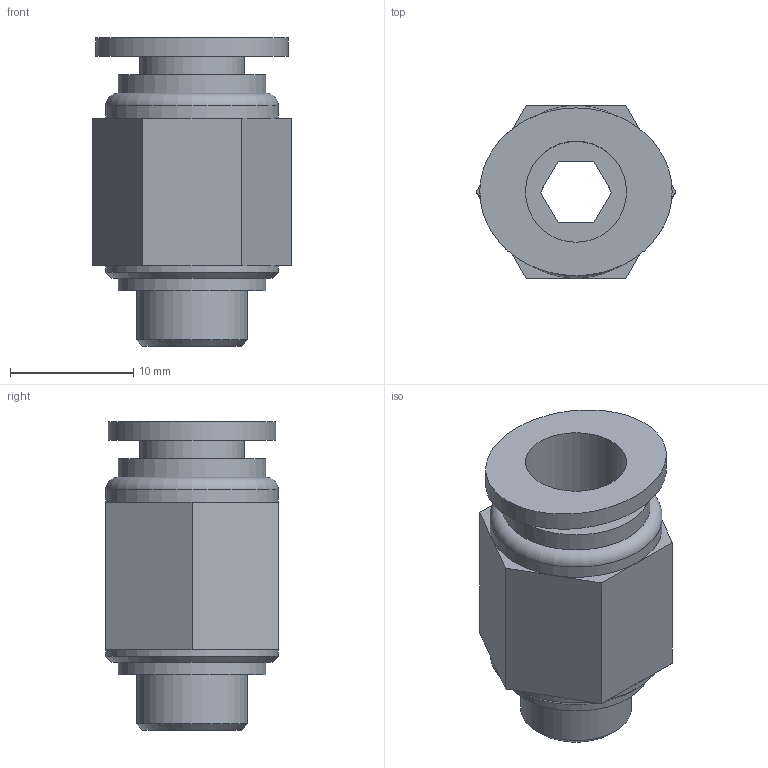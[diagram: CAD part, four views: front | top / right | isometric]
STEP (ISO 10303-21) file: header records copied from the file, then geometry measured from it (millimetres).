
FILE_DESCRIPTION(/* description */ (''),/* implementation_level */ '2;1');
FILE_NAME(/* name */ 'K:\Złączki\122\122.018\122.018-8\00-00 122.018-8.stp',/* time_stamp */ '2014-09-01T15:41:43+02:00',/* author */ ('Praktykant1'),/* organization */ (''),/* preprocessor_version */ 'ST-DEVELOPER v15.6',/* originating_system */ 'Autodesk Inventor 2015',/* authorisation */ '');
FILE_SCHEMA (('AUTOMOTIVE_DESIGN { 1 0 10303 214 3 1 1 }'));
Length unit declared in the file: millimetre
Products named in the file (4): 00-01 Obudowa; 00-02 Łącznik; 00-03 O-ring; 00-00 122.018-8
Bounding box: 16.17 x 14 x 25 mm (x, y, z)
Volume: 2236.5 mm3; surface area: 2747.7 mm2
Topology: 3 solids, 3 shells, 51 faces, 103 edges, 63 vertices
Faces by surface type: plane 35, cylinder 11, cone 3, torus 1, bspline 1
Full cylindrical faces by diameter (mm): 6 x1, 8.2 x1, 8.5 x1, 9 x3, 12 x3, 14 x2
Entity records: 1366 total; most frequent: DIRECTION 236, CARTESIAN_POINT 223, ORIENTED_EDGE 172, AXIS2_PLACEMENT_3D 94, EDGE_CURVE 86, EDGE_LOOP 77, VERTEX_POINT 61, FACE_OUTER_BOUND 51
